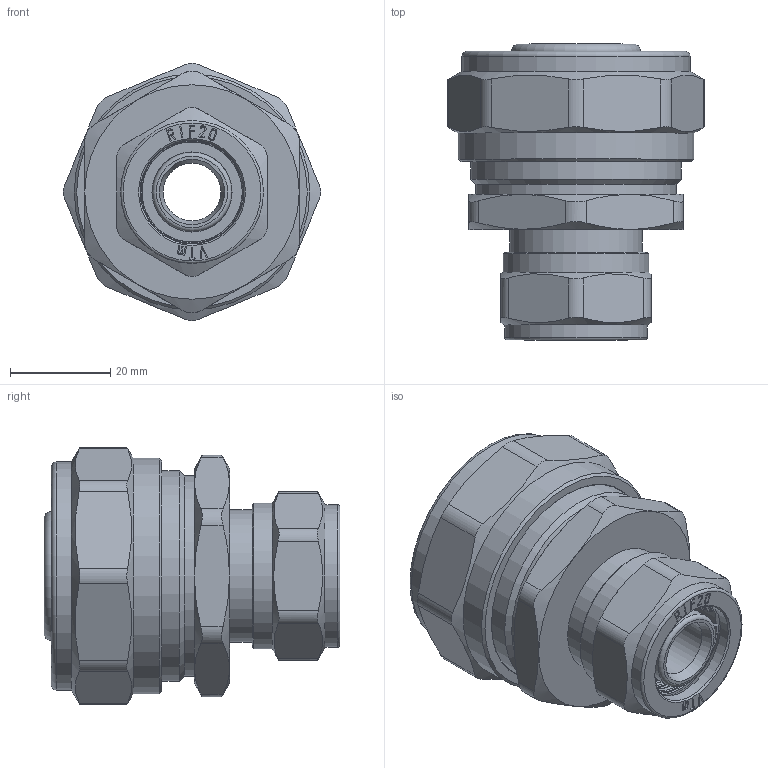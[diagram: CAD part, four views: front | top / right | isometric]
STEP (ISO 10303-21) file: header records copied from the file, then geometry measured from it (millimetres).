
FILE_DESCRIPTION(('STEP AP203'), '1');
FILE_NAME('VTm.303.N.003220', '', ('UNSPECIFIED'), ('UNSPECIFIED'), 'C3D Converter', 'C3D Toolkit', '');
FILE_SCHEMA(('CONFIG_CONTROL_DESIGN'));
Length unit declared in the file: millimetre
Products named in the file (1): ВР.302634.075.000 СБ
Bounding box: 51.3 x 59.03 x 51.3 mm (x, y, z)
Volume: 48589.7 mm3; surface area: 26976.2 mm2
Topology: 1 solids, 1 shells, 603 faces, 1635 edges, 1076 vertices
Faces by surface type: extrusion 246, plane 196, cylinder 72, torus 56, cone 33
Full cylindrical faces by diameter (mm): 11.5 x1, 15.8 x4, 15.9 x1, 20 x1, 20.1 x1, 20.2 x1, 20.7 x1, 22.8 x4, 24.118 x1, 25.8 x5, 26 x1, 26.441 x1, 28.5 x1, 29 x1, 32.1 x1, 32.2 x1, 32.7 x1, 40 x1, 40.376 x1, 42 x1, 45.5 x1, 47 x1
Entity records: 22884 total; most frequent: CARTESIAN_POINT 9193, ORIENTED_EDGE 3112, DIRECTION 2020, EDGE_CURVE 1556, VERTEX_POINT 1076, B_SPLINE_CURVE_WITH_KNOTS 907, VECTOR 898, EDGE_LOOP 728
